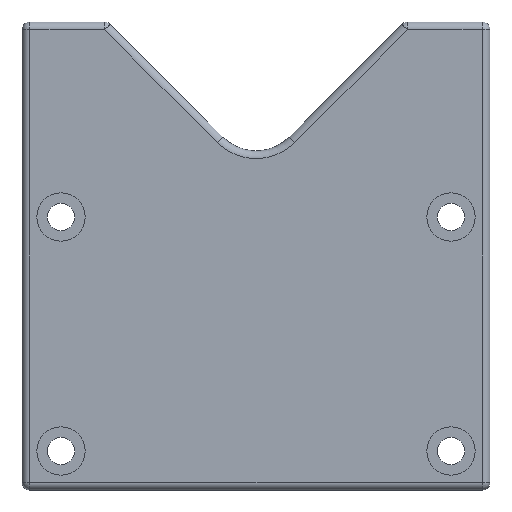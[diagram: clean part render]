
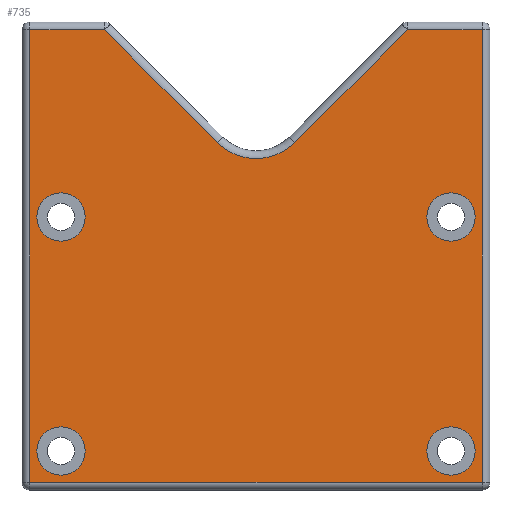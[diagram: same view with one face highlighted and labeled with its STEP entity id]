
A CAD part, left-side view. The second image highlights one B-rep face of the part: STEP entity #735.
In plain terms, the highlighted planar face has unit normal (-1, 0, 0).
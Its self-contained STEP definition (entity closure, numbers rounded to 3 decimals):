
#15=FACE_BOUND('',#250,.T.);
#16=FACE_BOUND('',#251,.T.);
#17=FACE_BOUND('',#252,.T.);
#18=FACE_BOUND('',#253,.T.);
#37=PLANE('',#848);
#53=LINE('',#1175,#94);
#55=LINE('',#1206,#96);
#57=LINE('',#1223,#98);
#59=LINE('',#1229,#100);
#61=LINE('',#1238,#102);
#65=LINE('',#1244,#106);
#77=LINE('',#1271,#118);
#94=VECTOR('',#920,10.);
#96=VECTOR('',#956,10.);
#98=VECTOR('',#976,10.);
#100=VECTOR('',#982,10.);
#102=VECTOR('',#994,10.);
#106=VECTOR('',#1002,10.);
#118=VECTOR('',#1036,10.);
#196=FACE_OUTER_BOUND('',#249,.T.);
#249=EDGE_LOOP('',(#623,#624,#625,#626,#627,#628,#629,#630));
#250=EDGE_LOOP('',(#631));
#251=EDGE_LOOP('',(#632));
#252=EDGE_LOOP('',(#633));
#253=EDGE_LOOP('',(#634));
#321=CIRCLE('',#822,7.);
#326=CIRCLE('',#849,3.1);
#327=CIRCLE('',#850,3.1);
#328=CIRCLE('',#851,3.1);
#329=CIRCLE('',#852,3.1);
#345=VERTEX_POINT('',#1153);
#353=VERTEX_POINT('',#1170);
#359=VERTEX_POINT('',#1187);
#365=VERTEX_POINT('',#1201);
#368=VERTEX_POINT('',#1211);
#371=VERTEX_POINT('',#1218);
#372=VERTEX_POINT('',#1225);
#374=VERTEX_POINT('',#1231);
#384=VERTEX_POINT('',#1303);
#385=VERTEX_POINT('',#1305);
#386=VERTEX_POINT('',#1307);
#387=VERTEX_POINT('',#1309);
#413=EDGE_CURVE('',#345,#353,#53,.T.);
#427=EDGE_CURVE('',#353,#365,#55,.T.);
#435=EDGE_CURVE('',#365,#371,#57,.T.);
#438=EDGE_CURVE('',#371,#372,#59,.T.);
#441=EDGE_CURVE('',#372,#374,#321,.T.);
#443=EDGE_CURVE('',#374,#368,#61,.T.);
#447=EDGE_CURVE('',#368,#359,#65,.T.);
#463=EDGE_CURVE('',#359,#345,#77,.T.);
#481=EDGE_CURVE('',#384,#384,#326,.T.);
#482=EDGE_CURVE('',#385,#385,#327,.T.);
#483=EDGE_CURVE('',#386,#386,#328,.T.);
#484=EDGE_CURVE('',#387,#387,#329,.T.);
#623=ORIENTED_EDGE('',*,*,#413,.F.);
#624=ORIENTED_EDGE('',*,*,#463,.F.);
#625=ORIENTED_EDGE('',*,*,#447,.F.);
#626=ORIENTED_EDGE('',*,*,#443,.F.);
#627=ORIENTED_EDGE('',*,*,#441,.F.);
#628=ORIENTED_EDGE('',*,*,#438,.F.);
#629=ORIENTED_EDGE('',*,*,#435,.F.);
#630=ORIENTED_EDGE('',*,*,#427,.F.);
#631=ORIENTED_EDGE('',*,*,#481,.T.);
#632=ORIENTED_EDGE('',*,*,#482,.T.);
#633=ORIENTED_EDGE('',*,*,#483,.T.);
#634=ORIENTED_EDGE('',*,*,#484,.T.);
#735=ADVANCED_FACE('',(#196,#15,#16,#17,#18),#37,.F.);
#822=AXIS2_PLACEMENT_3D('',#1235,#989,#990);
#848=AXIS2_PLACEMENT_3D('',#1302,#1074,#1075);
#849=AXIS2_PLACEMENT_3D('',#1304,#1076,#1077);
#850=AXIS2_PLACEMENT_3D('',#1306,#1078,#1079);
#851=AXIS2_PLACEMENT_3D('',#1308,#1080,#1081);
#852=AXIS2_PLACEMENT_3D('',#1310,#1082,#1083);
#920=DIRECTION('',(0.,1.,0.));
#956=DIRECTION('',(0.,0.,1.));
#976=DIRECTION('',(0.,-1.,0.));
#982=DIRECTION('',(0.,-0.707,-0.707));
#989=DIRECTION('center_axis',(-1.,0.,0.));
#990=DIRECTION('ref_axis',(0.,0.,-1.));
#994=DIRECTION('',(0.,-0.707,0.707));
#1002=DIRECTION('',(0.,-1.,0.));
#1036=DIRECTION('',(0.,0.,-1.));
#1074=DIRECTION('center_axis',(1.,0.,0.));
#1075=DIRECTION('ref_axis',(0.,0.,-1.));
#1076=DIRECTION('center_axis',(1.,0.,0.));
#1077=DIRECTION('ref_axis',(0.,1.,0.));
#1078=DIRECTION('center_axis',(1.,0.,0.));
#1079=DIRECTION('ref_axis',(0.,1.,0.));
#1080=DIRECTION('center_axis',(1.,0.,0.));
#1081=DIRECTION('ref_axis',(0.,1.,0.));
#1082=DIRECTION('center_axis',(1.,0.,0.));
#1083=DIRECTION('ref_axis',(0.,1.,0.));
#1153=CARTESIAN_POINT('',(0.,0.971,1.));
#1170=CARTESIAN_POINT('',(0.,58.971,1.));
#1175=CARTESIAN_POINT('',(0.,14.971,1.));
#1187=CARTESIAN_POINT('',(0.,0.971,59.));
#1201=CARTESIAN_POINT('',(0.,58.971,59.));
#1206=CARTESIAN_POINT('',(0.,58.971,14.925));
#1211=CARTESIAN_POINT('',(0.,10.557,59.));
#1218=CARTESIAN_POINT('',(0.,49.385,59.));
#1223=CARTESIAN_POINT('',(0.,44.971,59.));
#1225=CARTESIAN_POINT('',(0.,34.921,44.536));
#1229=CARTESIAN_POINT('',(0.,37.391,47.005));
#1231=CARTESIAN_POINT('',(0.,25.021,44.536));
#1235=CARTESIAN_POINT('Origin',(0.,29.971,49.485));
#1238=CARTESIAN_POINT('',(0.,32.051,37.505));
#1244=CARTESIAN_POINT('',(0.,20.471,59.));
#1271=CARTESIAN_POINT('',(0.,0.971,44.925));
#1302=CARTESIAN_POINT('Origin',(0.,29.971,29.85));
#1303=CARTESIAN_POINT('',(0.,58.071,5.));
#1304=CARTESIAN_POINT('Origin',(0.,54.971,5.));
#1305=CARTESIAN_POINT('',(0.,58.071,35.));
#1306=CARTESIAN_POINT('Origin',(0.,54.971,35.));
#1307=CARTESIAN_POINT('',(0.,8.071,5.));
#1308=CARTESIAN_POINT('Origin',(0.,4.971,5.));
#1309=CARTESIAN_POINT('',(0.,8.071,35.));
#1310=CARTESIAN_POINT('Origin',(0.,4.971,35.));
